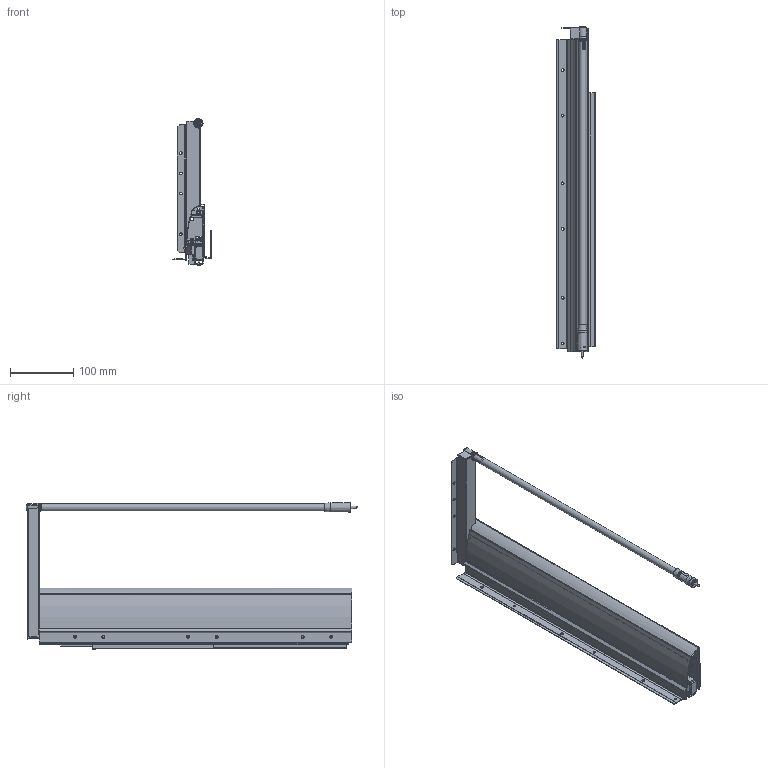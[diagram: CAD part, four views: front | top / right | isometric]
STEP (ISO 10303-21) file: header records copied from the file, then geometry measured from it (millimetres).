
FILE_DESCRIPTION( ( 'Unknown' ), '1' );
FILE_NAME( 'W:/研發專區/RD19克怡/文件申請/A58-3D/轉出/A5809.stp', 'Unknown', ( 'Unknown' ), ( 'Unknown' ), 'PSStep 14.0', 'Unknown', ' ' );
FILE_SCHEMA( ( 'AUTOMOTIVE_DESIGN { 1 0 10303 214 1 1 1 1 }' ) );
Length unit declared in the file: millimetre
Products named in the file (21): W-983背板組件R; P10-387-0; W-958-A-1-00; W-980-E\X2\53EF8ABF5F0F524D677F9023687\X0\; 後板__; ___; __▼敹急_; __▼霅_; W-868-E-0_0; A5806; \X2\4E0A6846524D84C\X0\; 上框-new; 中框-new; 下框-new; \X2\64A5687\X0\; P10-939; 側板組件+W-983; W-856-E-0; W-862-E-1-00; P10-661-0-00; Assem1
Assembly tree (20 placements, depth 4):
  Assem1
    W-980-E\X2\53EF8ABF5F0F524D677F9023687\X0\
      後板__
      ___
      __▼敹急_
      __▼霅_
      W-868-E-0_0
    側板組件+W-983
      W-856-E-0
      W-862-E-1-00
      P10-661-0-00
      W-983背板組件R
        P10-387-0
        W-958-A-1-00
    A5806
      \X2\4E0A6846524D84C\X0\
      上框-new
      中框-new
      下框-new
      \X2\64A5687\X0\
      P10-939
Bounding box: 61.87 x 523.21 x 231.21 mm (x, y, z)
Volume: 312592.4 mm3; surface area: 586830 mm2
Topology: 16 solids, 16 shells, 1777 faces, 4650 edges, 2920 vertices
Faces by surface type: plane 804, cylinder 619, bspline 169, torus 153, cone 24, sphere 8
Full cylindrical faces by diameter (mm): 2.5 x2, 3.5 x6, 4 x1, 4.2 x10, 4.5 x12, 6.1 x6, 6.4 x24, 7 x3, 8 x2, 8.3 x2, 8.5 x1, 8.6 x2, 11 x1, 11.2 x1, 11.9 x1, 12 x1, 13.5 x1
Entity records: 73957 total; most frequent: CARTESIAN_POINT 16993, ORIENTED_EDGE 8850, DIRECTION 8668, EDGE_CURVE 4425, AXIS2_PLACEMENT_3D 3041, VERTEX_POINT 2861, LINE 2586, VECTOR 2586
